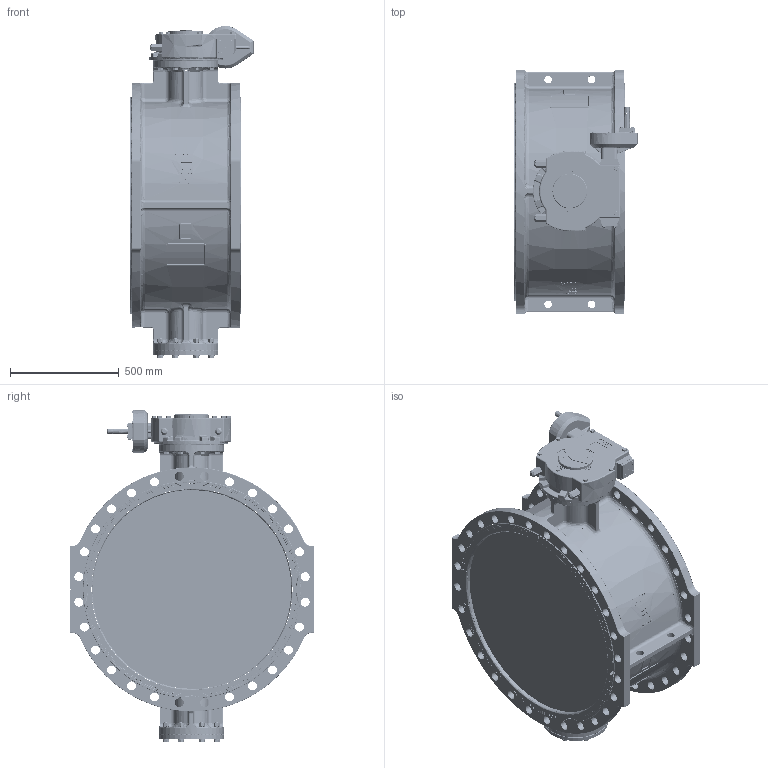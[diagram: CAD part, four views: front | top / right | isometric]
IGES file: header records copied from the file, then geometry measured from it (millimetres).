
Start section: SolidWorks IGES file using analytic representation for surfaces
Global section: file name: C:\Documents and Settings\Paji\Desktop\756090011400501\Part3.IGS; native system: SolidWorks 2008; preprocessor: SolidWorks 2008; author: paji; date: 100929.135800; units: millimetre
Bounding box: 567 x 1125 x 1530 mm (x, y, z)
Surface area: 5566334.3 mm2 (no closed solid volume)
Topology: 0 solids, 0 shells, 3202 faces, 49690 edges, 49617 vertices
Faces by surface type: bspline 2022, revolution 1180
